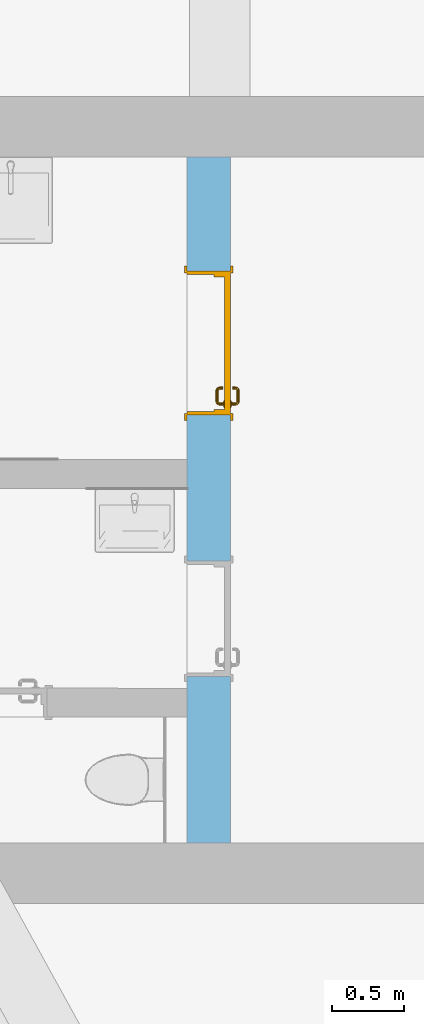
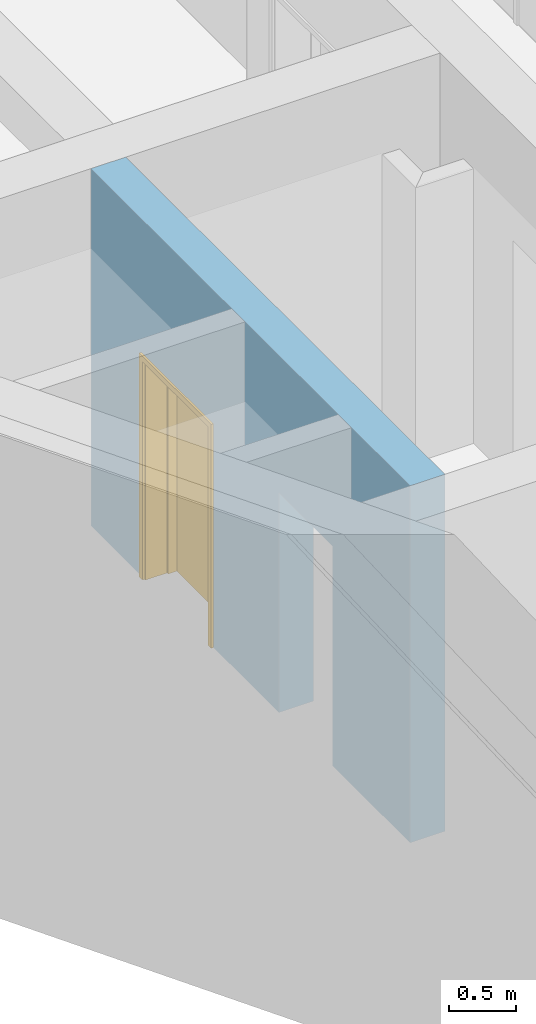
# One storey, part 48 of 194: 1 door, 2 openings, plus 1 element that does not belong to this part.
"""IFC2X3 building model written with IfcOpenShell, lengths in millimetres."""

from ifc_helpers import new_model, entity, si_unit, converted_unit, derived_unit, money_unit, direction, frame, origin_with_axes, origin_2d_with_axis, place, context, subcontext, project, spatial, polyline, rectangle, outline, extrude, open_shell, faceted_brep, surface_model, material, layer, layer_set, layer_usage, type_object, element, fill, save


model = new_model("IFC2X3")

# Units and contexts
model_context = context("Model", 3, precision=1e-05, world=origin_with_axes(), true_north=direction((0.0, 1.0)))
body_context = subcontext(model_context, "Body", "Model", "MODEL_VIEW")
ifc_project = project(units=[si_unit("LENGTHUNIT", "METRE", prefix="MILLI"), si_unit("AREAUNIT", "SQUARE_METRE"), si_unit("VOLUMEUNIT", "CUBIC_METRE"), converted_unit("PLANEANGLEUNIT", "DEGREE", entity("IfcPlaneAngleMeasure", 0.0174532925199), si_unit("PLANEANGLEUNIT", "RADIAN"), dimensions=[0, 0, 0, 0, 0, 0, 0]), si_unit("SOLIDANGLEUNIT", "STERADIAN"), money_unit("EUR"), converted_unit("TIMEUNIT", "Year", entity("IfcTimeMeasure", 31556926.0), si_unit("TIMEUNIT", "SECOND"), dimensions=[0, 0, 1, 0, 0, 0, 0]), si_unit("MASSUNIT", "GRAM", prefix="KILO"), si_unit("THERMODYNAMICTEMPERATUREUNIT", "DEGREE_CELSIUS"), si_unit("LUMINOUSINTENSITYUNIT", "LUMEN"), si_unit("ENERGYUNIT", "JOULE", prefix="MEGA"), derived_unit("THERMALCONDUCTANCEUNIT", [(si_unit("POWERUNIT", "WATT"), 1), (si_unit("LENGTHUNIT", "METRE"), -1), (si_unit("THERMODYNAMICTEMPERATUREUNIT", "KELVIN"), -1)]), derived_unit("SPECIFICHEATCAPACITYUNIT", [(si_unit("ENERGYUNIT", "JOULE"), 1), (si_unit("MASSUNIT", "GRAM", prefix="KILO"), -1), (si_unit("THERMODYNAMICTEMPERATUREUNIT", "KELVIN"), -1)]), derived_unit("MASSDENSITYUNIT", [(si_unit("MASSUNIT", "GRAM", prefix="KILO"), 1), (si_unit("VOLUMEUNIT", "CUBIC_METRE"), -1)])], contexts=[model_context])

# Site, building, storey
site_placement = place(None, origin_with_axes())
site = spatial("IfcSite", under=ifc_project, at=site_placement, Name="Site", CompositionType="ELEMENT")
building_placement = place(site_placement, origin_with_axes())
building = spatial("IfcBuilding", under=site, at=building_placement, Name="Building", CompositionType="ELEMENT")
storey_placement = place(building_placement, frame((0.0, 0.0, 3000.0), z_axis=(0.0, 0.0, 1.0), x_axis=(1.0, 0.0, 0.0)))
storey = spatial("IfcBuildingStorey", under=building, at=storey_placement, Name="2 KORRUS", CompositionType="ELEMENT", Elevation=3000.0)

# Wall, openings, door
ifc_material = material(Name="Kivi -Ol.Olev Konstruktsioon")
ifc_layer = layer(ifc_material, 300.0, ventilated="UNKNOWN")
ifc_layer_set = layer_set([ifc_layer], Name="ol.olev ss 300")
ifc_layer_usage = layer_usage(ifc_layer_set, "AXIS2", "POSITIVE", 0.0)
wall_type = type_object("IfcWallType", Name="SW - 022", PredefinedType="NOTDEFINED")
wall_placement = place(storey_placement, frame((33717.5084509, 13483.9813304, 0.0), z_axis=(0.0, 0.0, 1.0), x_axis=(0.0, -1.0, 0.0)))
wall = element("IfcWallStandardCase", 1, at=wall_placement, inside=storey, type_object=wall_type, material=ifc_layer_usage, Name="ol.olev ss 300", context=body_context, shape_type="SweptSolid", body=[
    extrude(outline(polyline([(0.0, 0.0), (4760.45253446, 0.0), (4760.45253446, 300.0), (0.0, 300.0), (0.0, 0.0)])), origin_with_axes(), (0.0, 0.0, 1.0), 3250.0),
])
opening_1_placement = place(wall_placement, frame((3204.63694047, 0.0, 0.0), z_axis=(0.0, 0.0, 1.0), x_axis=(1.0, 0.0, 0.0)))
element("IfcOpeningElement", 2, at=opening_1_placement, cuts=wall, Name="Siseuks * Door 22", context=body_context, shape_type="SweptSolid", body=[
    extrude(rectangle(XDim=799.999999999, YDim=2000.0, at=origin_2d_with_axis()), frame((0.0, -300.0, 1000.0), z_axis=(0.0, -1.0, 0.0), x_axis=(-1.0, 0.0, 0.0)), (0.0, 0.0, -1.0), 900.0),
    extrude(rectangle(XDim=874.0, YDim=2037.0, at=origin_2d_with_axis()), frame((0.0, 0.0, 1018.5), z_axis=(0.0, -1.0, 0.0), x_axis=(-1.0, 0.0, 0.0)), (0.0, 0.0, 1.0), 300.0),
    extrude(rectangle(XDim=874.0, YDim=2037.0, at=origin_2d_with_axis()), frame((0.0, 300.0, 1018.5), z_axis=(0.0, 1.0, 0.0), x_axis=(-1.0, 0.0, 0.0)), (0.0, 0.0, 1.0), 300.0),
])
opening_2_placement = place(wall_placement, frame((1291.46386027, 0.0, 0.0), z_axis=(0.0, 0.0, 1.0), x_axis=(1.0, 0.0, 0.0)))
opening_2 = element("IfcOpeningElement", 3, at=opening_2_placement, cuts=wall, Name="Siseuks * Door 22", context=body_context, shape_type="SweptSolid", body=[
    extrude(rectangle(XDim=1000.0, YDim=2000.0, at=origin_2d_with_axis()), frame((0.0, -300.0, 1000.0), z_axis=(0.0, -1.0, 0.0), x_axis=(-1.0, 0.0, 0.0)), (0.0, 0.0, -1.0), 900.0),
    extrude(rectangle(XDim=1074.0, YDim=2037.0, at=origin_2d_with_axis()), frame((0.0, 0.0, 1018.5), z_axis=(0.0, -1.0, 0.0), x_axis=(-1.0, 0.0, 0.0)), (0.0, 0.0, 1.0), 300.0),
    extrude(rectangle(XDim=1074.0, YDim=2037.0, at=origin_2d_with_axis()), frame((0.0, 300.0, 1018.5), z_axis=(0.0, 1.0, 0.0), x_axis=(-1.0, 0.0, 0.0)), (0.0, 0.0, 1.0), 300.0),
])
door_style = type_object("IfcDoorStyle", Name="SU-C208   1\xa0000×2\xa0000", ConstructionType="NOTDEFINED", OperationType="SINGLE_SWING_LEFT", ParameterTakesPrecedence=False, Sizeable=False)
door_placement = place(opening_2_placement, frame((-500.0, 0.0, 0.0), z_axis=(0.0, 0.0, 1.0), x_axis=(1.0, 0.0, 0.0)))
door = element("IfcDoor", 4, at=door_placement, inside=storey, type_object=door_style, Name="Siseuks * Door 22", OverallHeight=2000.0, OverallWidth=1000.0, context=body_context, shape_type="SurfaceModel", body=[
    faceted_brep([(1000.0, 185.0, 0.0), (1000.0, 0.0, 0.0), (975.0, 0.0, 0.0), (975.0, 185.0, 0.0), (1000.0, 185.0, 2000.0), (1000.0, 0.0, 2000.0), (975.0, 0.0, 1975.0), (975.0, 185.0, 1975.0)], [[[0, 1, 2, 3]], [[4, 5, 1, 0]], [[1, 5, 6, 2]], [[3, 2, 6, 7]], [[0, 3, 7, 4]], [[7, 6, 5, 4]]]),
    faceted_brep([(0.0, 185.0, 2000.0), (0.0, 0.0, 2000.0), (24.9999999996, 0.0, 1975.0), (24.9999999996, 185.0, 1975.0), (0.0, 185.0, 0.0), (0.0, 0.0, 0.0), (24.9999999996, 0.0, 0.0), (24.9999999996, 185.0, 0.0)], [[[0, 1, 2, 3]], [[4, 5, 1, 0]], [[1, 5, 6, 2]], [[3, 2, 6, 7]], [[0, 3, 7, 4]], [[7, 6, 5, 4]]]),
    faceted_brep([(975.0, 185.0, 1975.0), (975.0, 0.0, 1975.0), (24.9999999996, 0.0, 1975.0), (24.9999999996, 185.0, 1975.0), (1000.0, 185.0, 2000.0), (1000.0, 0.0, 2000.0), (0.0, 0.0, 2000.0), (0.0, 185.0, 2000.0)], [[[0, 1, 2, 3]], [[4, 5, 1, 0]], [[1, 5, 6, 2]], [[3, 2, 6, 7]], [[0, 3, 7, 4]], [[7, 6, 5, 4]]]),
    faceted_brep([(1037.0, -19.0, 0.0), (987.0, -19.0, 0.0), (987.0, 0.0, 0.0), (1037.0, 0.0, 0.0), (1037.0, -19.0, 2037.0), (987.0, -19.0, 1987.0), (987.0, 0.0, 1987.0), (1037.0, 0.0, 2037.0)], [[[0, 1, 2, 3]], [[0, 4, 5, 1]], [[1, 5, 6, 2]], [[3, 2, 6, 7]], [[4, 0, 3, 7]], [[5, 4, 7, 6]]]),
    faceted_brep([(-37.0000000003, -19.0, 2037.0), (12.9999999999, -19.0, 1987.0), (12.9999999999, 0.0, 1987.0), (-37.0000000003, 0.0, 2037.0), (-37.0000000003, -19.0, 0.0), (12.9999999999, -19.0, 0.0), (12.9999999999, 0.0, 0.0), (-37.0000000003, 0.0, 0.0)], [[[0, 1, 2, 3]], [[0, 4, 5, 1]], [[1, 5, 6, 2]], [[3, 2, 6, 7]], [[4, 0, 3, 7]], [[5, 4, 7, 6]]]),
    faceted_brep([(1037.0, -19.0, 2037.0), (987.0, -19.0, 1987.0), (987.0, 0.0, 1987.0), (1037.0, 0.0, 2037.0), (-37.0000000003, -19.0, 2037.0), (12.9999999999, -19.0, 1987.0), (12.9999999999, 0.0, 1987.0), (-37.0000000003, 0.0, 2037.0)], [[[0, 1, 2, 3]], [[0, 4, 5, 1]], [[1, 5, 6, 2]], [[3, 2, 6, 7]], [[4, 0, 3, 7]], [[5, 4, 7, 6]]]),
    faceted_brep([(1037.0, 319.0, 0.0), (1037.0, 300.0, 0.0), (987.0, 300.0, 0.0), (987.0, 319.0, 0.0), (1037.0, 319.0, 2037.0), (1037.0, 300.0, 2037.0), (987.0, 300.0, 1987.0), (987.0, 319.0, 1987.0)], [[[0, 1, 2, 3]], [[4, 5, 1, 0]], [[1, 5, 6, 2]], [[3, 2, 6, 7]], [[0, 3, 7, 4]], [[7, 6, 5, 4]]]),
    faceted_brep([(-37.0000000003, 319.0, 2037.0), (-37.0000000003, 300.0, 2037.0), (12.9999999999, 300.0, 1987.0), (12.9999999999, 319.0, 1987.0), (-37.0000000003, 319.0, 0.0), (-37.0000000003, 300.0, 0.0), (12.9999999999, 300.0, 0.0), (12.9999999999, 319.0, 0.0)], [[[0, 1, 2, 3]], [[4, 5, 1, 0]], [[1, 5, 6, 2]], [[3, 2, 6, 7]], [[0, 3, 7, 4]], [[7, 6, 5, 4]]]),
    faceted_brep([(1037.0, 319.0, 2037.0), (1037.0, 300.0, 2037.0), (987.0, 300.0, 1987.0), (987.0, 319.0, 1987.0), (-37.0000000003, 319.0, 2037.0), (-37.0000000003, 300.0, 2037.0), (12.9999999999, 300.0, 1987.0), (12.9999999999, 319.0, 1987.0)], [[[0, 1, 2, 3]], [[4, 5, 1, 0]], [[1, 5, 6, 2]], [[3, 2, 6, 7]], [[0, 3, 7, 4]], [[7, 6, 5, 4]]]),
    faceted_brep([(960.0, 260.0, 0.0), (960.0, 185.0, 0.0), (960.0, 185.0, 1960.0), (960.0, 260.0, 1960.0), (972.0, 260.0, 0.0), (972.0, 300.0, 0.0), (1000.0, 300.0, 0.0), (1000.0, 185.0, 0.0), (1000.0, 185.0, 1960.0), (972.0, 260.0, 1960.0), (1000.0, 300.0, 1960.0), (972.0, 300.0, 1960.0)], [[[0, 1, 2, 3]], [[4, 5, 6, 7, 1, 0]], [[1, 7, 8, 2]], [[9, 3, 2, 8, 10, 11]], [[9, 4, 0, 3]], [[11, 5, 4, 9]], [[11, 10, 6, 5]], [[6, 10, 8, 7]]]),
    faceted_brep([(28.0000000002, 260.0, 1960.0), (28.0000000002, 300.0, 1960.0), (0.0, 300.0, 1960.0), (0.0, 185.0, 1960.0), (40.0, 185.0, 1960.0), (40.0, 260.0, 1960.0), (28.0000000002, 260.0, 0.0), (28.0000000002, 300.0, 0.0), (0.0, 300.0, 0.0), (0.0, 185.0, 0.0), (40.0, 185.0, 0.0), (40.0, 260.0, 0.0)], [[[0, 1, 2, 3, 4, 5]], [[0, 6, 7, 1]], [[7, 8, 2, 1]], [[2, 8, 9, 3]], [[3, 9, 10, 4]], [[5, 4, 10, 11]], [[5, 11, 6, 0]], [[6, 11, 10, 9, 8, 7]]]),
    faceted_brep([(972.0, 300.0, 1972.0), (28.0000000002, 300.0, 1972.0), (28.0000000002, 300.0, 1960.0), (0.0, 300.0, 1960.0), (0.0, 300.0, 2000.0), (1000.0, 300.0, 2000.0), (1000.0, 300.0, 1960.0), (972.0, 300.0, 1960.0), (972.0, 260.0, 1972.0), (28.0000000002, 260.0, 1972.0), (28.0000000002, 260.0, 1960.0), (40.0, 260.0, 1960.0), (40.0, 185.0, 1960.0), (0.0, 185.0, 1960.0), (0.0, 185.0, 2000.0), (1000.0, 185.0, 2000.0), (1000.0, 185.0, 1960.0), (972.0, 260.0, 1960.0), (960.0, 185.0, 1960.0), (960.0, 260.0, 1960.0)], [[[0, 1, 2, 3, 4, 5, 6, 7]], [[0, 8, 9, 1]], [[1, 9, 10, 2]], [[10, 11, 12, 13, 3, 2]], [[4, 3, 13, 14]], [[5, 4, 14, 15]], [[6, 5, 15, 16]], [[17, 7, 6, 16, 18, 19]], [[7, 17, 8, 0]], [[10, 9, 8, 17, 19, 11]], [[19, 18, 12, 11]], [[12, 18, 16, 15, 14, 13]]]),
    faceted_brep([(950.5, 260.0, 1060.0), (893.5, 260.0, 1060.0), (893.5, 257.0, 1060.0), (950.5, 257.0, 1060.0), (950.5, 260.0, 870.0), (893.5, 260.0, 870.0), (893.5, 257.0, 870.0), (950.5, 257.0, 870.0)], [[[0, 1, 2, 3]], [[0, 4, 5, 1]], [[1, 5, 6, 2]], [[3, 2, 6, 7]], [[4, 0, 3, 7]], [[5, 4, 7, 6]]]),
    surface_model("IfcShellBasedSurfaceModel", [(912.0, 247.0, 1000.0), (914.928932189, 247.0, 992.928932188), (914.928932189, 227.696439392, 992.928932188), (912.0, 227.984914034, 1000.0), (922.0, 247.0, 990.0), (922.0, 227.0, 990.0), (913.816790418, 222.105325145, 992.928932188), (911.057796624, 223.248137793, 1000.0), (914.928932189, 247.0, 1007.07106781), (914.928932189, 227.696439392, 1007.07106781), (929.071067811, 247.0, 992.928932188), (929.071067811, 226.303560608, 992.928932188), (920.47759065, 219.346331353, 990.0), (911.044179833, 217.955820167, 992.928932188), (908.932537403, 220.067462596, 1000.0), (913.816790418, 222.105325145, 1007.07106781), (922.0, 247.0, 1010.0), (922.0, 227.0, 1010.0), (932.0, 247.0, 1000.0), (932.0, 226.015085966, 1000.0), (927.138390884, 216.58733756, 992.928932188), (916.142135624, 212.857864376, 990.0), (906.894674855, 215.183209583, 992.928932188), (905.751862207, 217.942203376, 1000.0), (911.044179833, 217.955820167, 1007.07106781), (920.47759065, 219.346331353, 1010.0), (929.071067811, 247.0, 1007.07106781), (929.071067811, 226.303560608, 1007.07106781), (929.897384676, 215.444524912, 1000.0), (921.240091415, 207.759908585, 992.928932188), (909.653668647, 208.52240935, 990.0), (901.303560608, 214.071067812, 992.928932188), (901.015085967, 217.0, 1000.0), (906.894674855, 215.183209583, 1007.07106781), (916.142135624, 212.857864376, 1010.0), (927.138390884, 216.58733756, 1007.07106781), (923.351733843, 205.648266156, 1000.0), (912.41266244, 201.861609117, 992.928932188), (902.0, 207.0, 990.0), (832.696439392, 214.071067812, 992.928932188), (832.984914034, 217.0, 1000.0), (901.303560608, 214.071067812, 1007.07106781), (909.653668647, 208.52240935, 1010.0), (921.240091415, 207.759908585, 1007.07106781), (913.555475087, 199.102615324, 1000.0), (902.696439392, 199.928932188, 992.928932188), (832.0, 207.0, 990.0), (827.105325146, 215.183209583, 992.928932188), (828.248137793, 217.942203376, 1000.0), (832.696439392, 214.071067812, 1007.07106781), (902.0, 207.0, 1010.0), (912.41266244, 201.861609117, 1007.07106781), (902.984914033, 197.0, 1000.0), (831.303560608, 199.928932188, 992.928932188), (824.346331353, 208.52240935, 990.0), (822.955820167, 217.955820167, 992.928932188), (825.067462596, 220.067462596, 1000.0), (827.105325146, 215.183209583, 1007.07106781), (832.0, 207.0, 1010.0), (902.696439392, 199.928932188, 1007.07106781), (831.015085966, 197.0, 1000.0), (821.58733756, 201.861609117, 992.928932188), (817.857864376, 212.857864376, 990.0), (820.183209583, 222.105325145, 992.928932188), (822.942203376, 223.248137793, 1000.0), (822.955820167, 217.955820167, 1007.07106781), (824.346331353, 208.52240935, 1010.0), (831.303560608, 199.928932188, 1007.07106781), (820.444524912, 199.102615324, 1000.0), (812.759908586, 207.759908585, 992.928932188), (813.522409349, 219.346331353, 990.0), (819.071067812, 227.696439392, 992.928932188), (822.0, 227.984914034, 1000.0), (820.183209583, 222.105325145, 1007.07106781), (817.857864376, 212.857864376, 1010.0), (821.58733756, 201.861609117, 1007.07106781), (810.648266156, 205.648266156, 1000.0), (806.861609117, 216.58733756, 992.928932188), (812.0, 227.0, 990.0), (819.071067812, 247.0, 992.928932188), (822.0, 247.0, 1000.0), (819.071067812, 227.696439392, 1007.07106781), (813.522409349, 219.346331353, 1010.0), (812.759908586, 207.759908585, 1007.07106781), (804.102615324, 215.444524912, 1000.0), (804.928932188, 226.303560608, 992.928932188), (812.0, 247.0, 990.0), (804.928932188, 247.0, 992.928932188), (802.0, 247.0, 1000.0), (804.928932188, 247.0, 1007.07106781), (812.0, 247.0, 1010.0), (819.071067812, 247.0, 1007.07106781), (812.0, 227.0, 1010.0), (806.861609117, 216.58733756, 1007.07106781), (802.0, 226.015085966, 1000.0), (804.928932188, 226.303560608, 1007.07106781)], [open_shell([[[0, 1, 2, 3]], [[1, 4, 5, 2]], [[3, 2, 6, 7]], [[8, 0, 3, 9]], [[4, 10, 11, 5]], [[2, 5, 12, 6]], [[7, 6, 13, 14]], [[9, 3, 7, 15]], [[16, 8, 9, 17]], [[10, 18, 19, 11]], [[5, 11, 20, 12]], [[6, 12, 21, 13]], [[14, 13, 22, 23]], [[15, 7, 14, 24]], [[17, 9, 15, 25]], [[26, 16, 17, 27]], [[18, 26, 27, 19]], [[11, 19, 28, 20]], [[12, 20, 29, 21]], [[13, 21, 30, 22]], [[23, 22, 31, 32]], [[24, 14, 23, 33]], [[25, 15, 24, 34]], [[27, 17, 25, 35]], [[19, 27, 35, 28]], [[20, 28, 36, 29]], [[21, 29, 37, 30]], [[22, 30, 38, 31]], [[32, 31, 39, 40]], [[33, 23, 32, 41]], [[34, 24, 33, 42]], [[35, 25, 34, 43]], [[28, 35, 43, 36]], [[29, 36, 44, 37]], [[30, 37, 45, 38]], [[31, 38, 46, 39]], [[40, 39, 47, 48]], [[41, 32, 40, 49]], [[42, 33, 41, 50]], [[43, 34, 42, 51]], [[36, 43, 51, 44]], [[37, 44, 52, 45]], [[38, 45, 53, 46]], [[39, 46, 54, 47]], [[48, 47, 55, 56]], [[49, 40, 48, 57]], [[50, 41, 49, 58]], [[51, 42, 50, 59]], [[44, 51, 59, 52]], [[45, 52, 60, 53]], [[46, 53, 61, 54]], [[47, 54, 62, 55]], [[56, 55, 63, 64]], [[57, 48, 56, 65]], [[58, 49, 57, 66]], [[59, 50, 58, 67]], [[52, 59, 67, 60]], [[53, 60, 68, 61]], [[54, 61, 69, 62]], [[55, 62, 70, 63]], [[64, 63, 71, 72]], [[65, 56, 64, 73]], [[66, 57, 65, 74]], [[67, 58, 66, 75]], [[60, 67, 75, 68]], [[61, 68, 76, 69]], [[62, 69, 77, 70]], [[63, 70, 78, 71]], [[72, 71, 79, 80]], [[73, 64, 72, 81]], [[74, 65, 73, 82]], [[75, 66, 74, 83]], [[68, 75, 83, 76]], [[69, 76, 84, 77]], [[70, 77, 85, 78]], [[71, 78, 86, 79]], [[80, 79, 86, 87, 88, 89, 90, 91]], [[81, 72, 80, 91]], [[82, 73, 81, 92]], [[83, 74, 82, 93]], [[76, 83, 93, 84]], [[77, 84, 94, 85]], [[78, 85, 87, 86]], [[85, 94, 88, 87]], [[94, 95, 89, 88]], [[95, 92, 90, 89]], [[92, 81, 91, 90]], [[93, 82, 92, 95]], [[84, 93, 95, 94]]])]),
    faceted_brep([(911.607695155, 247.0, 994.0), (910.0, 247.0, 1000.0), (909.0, 257.0, 1000.0), (910.741669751, 257.0, 993.5), (916.0, 247.0, 989.607695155), (922.0, 247.0, 988.0), (928.0, 247.0, 989.607695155), (932.392304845, 247.0, 994.0), (934.0, 247.0, 1000.0), (932.392304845, 247.0, 1006.0), (928.0, 247.0, 1010.39230485), (922.0, 247.0, 1012.0), (916.0, 247.0, 1010.39230485), (911.607695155, 247.0, 1006.0), (910.741669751, 257.0, 1006.5), (915.5, 257.0, 1011.25833025), (922.0, 257.0, 1013.0), (928.5, 257.0, 1011.25833025), (933.258330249, 257.0, 1006.5), (935.0, 257.0, 1000.0), (933.258330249, 257.0, 993.5), (928.5, 257.0, 988.741669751), (922.0, 257.0, 987.0), (915.5, 257.0, 988.741669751)], [[[0, 1, 2, 3]], [[1, 0, 4, 5, 6, 7, 8, 9, 10, 11, 12, 13]], [[1, 13, 14, 2]], [[2, 14, 15, 16, 17, 18, 19, 20, 21, 22, 23, 3]], [[4, 0, 3, 23]], [[5, 4, 23, 22]], [[6, 5, 22, 21]], [[7, 6, 21, 20]], [[8, 7, 20, 19]], [[9, 8, 19, 18]], [[10, 9, 18, 17]], [[11, 10, 17, 16]], [[12, 11, 16, 15]], [[13, 12, 15, 14]]]),
    faceted_brep([(904.679491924, 253.0, 895.0), (902.0, 253.0, 905.0), (900.0, 257.0, 905.0), (902.947441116, 257.0, 894.0), (912.0, 253.0, 887.679491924), (922.0, 253.0, 885.0), (932.0, 253.0, 887.679491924), (939.320508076, 253.0, 895.0), (942.0, 253.0, 905.0), (939.320508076, 253.0, 915.0), (932.0, 253.0, 922.320508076), (922.0, 253.0, 925.0), (912.0, 253.0, 922.320508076), (904.679491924, 253.0, 915.0), (902.947441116, 257.0, 916.0), (911.0, 257.0, 924.052558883), (922.0, 257.0, 927.0), (933.0, 257.0, 924.052558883), (941.052558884, 257.0, 916.0), (944.0, 257.0, 905.0), (941.052558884, 257.0, 894.0), (933.0, 257.0, 885.947441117), (922.0, 257.0, 883.0), (911.0, 257.0, 885.947441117)], [[[0, 1, 2, 3]], [[1, 0, 4, 5, 6, 7, 8, 9, 10, 11, 12, 13]], [[1, 13, 14, 2]], [[2, 14, 15, 16, 17, 18, 19, 20, 21, 22, 23, 3]], [[4, 0, 3, 23]], [[5, 4, 23, 22]], [[6, 5, 22, 21]], [[7, 6, 21, 20]], [[8, 7, 20, 19]], [[9, 8, 19, 18]], [[10, 9, 18, 17]], [[11, 10, 17, 16]], [[12, 11, 16, 15]], [[13, 12, 15, 14]]]),
    faceted_brep([(917.050252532, 251.0, 909.050252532), (915.0, 251.0, 914.0), (914.0, 253.0, 914.0), (916.343145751, 253.0, 908.343145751), (922.0, 251.0, 907.0), (926.949747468, 251.0, 909.050252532), (929.0, 251.0, 914.0), (926.949747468, 251.0, 918.949747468), (922.0, 251.0, 921.0), (917.050252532, 251.0, 918.949747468), (916.343145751, 253.0, 919.656854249), (922.0, 253.0, 922.0), (927.656854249, 253.0, 919.656854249), (930.0, 253.0, 914.0), (927.656854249, 253.0, 908.343145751), (922.0, 253.0, 906.0)], [[[0, 1, 2, 3]], [[1, 0, 4, 5, 6, 7, 8, 9]], [[1, 9, 10, 2]], [[2, 10, 11, 12, 13, 14, 15, 3]], [[4, 0, 3, 15]], [[5, 4, 15, 14]], [[6, 5, 14, 13]], [[7, 6, 13, 12]], [[8, 7, 12, 11]], [[9, 8, 11, 10]]]),
    faceted_brep([(950.5, 300.0, 1060.0), (950.5, 303.0, 1060.0), (893.5, 303.0, 1060.0), (893.5, 300.0, 1060.0), (950.5, 300.0, 870.0), (950.5, 303.0, 870.0), (893.5, 303.0, 870.0), (893.5, 300.0, 870.0)], [[[0, 1, 2, 3]], [[4, 5, 1, 0]], [[1, 5, 6, 2]], [[3, 2, 6, 7]], [[0, 3, 7, 4]], [[7, 6, 5, 4]]]),
    surface_model("IfcShellBasedSurfaceModel", [(912.0, 313.0, 1000.0), (912.0, 332.015085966, 1000.0), (914.928932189, 332.303560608, 992.928932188), (914.928932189, 313.0, 992.928932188), (914.928932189, 313.0, 1007.07106781), (914.928932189, 332.303560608, 1007.07106781), (911.057796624, 336.751862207, 1000.0), (913.816790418, 337.894674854, 992.928932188), (922.0, 333.0, 990.0), (922.0, 313.0, 990.0), (922.0, 313.0, 1010.0), (922.0, 333.0, 1010.0), (913.816790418, 337.894674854, 1007.07106781), (908.932537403, 339.932537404, 1000.0), (911.044179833, 342.044179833, 992.928932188), (920.47759065, 340.653668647, 990.0), (929.071067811, 333.696439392, 992.928932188), (929.071067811, 313.0, 992.928932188), (929.071067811, 313.0, 1007.07106781), (929.071067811, 333.696439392, 1007.07106781), (920.47759065, 340.653668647, 1010.0), (911.044179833, 342.044179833, 1007.07106781), (905.751862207, 342.057796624, 1000.0), (906.894674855, 344.816790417, 992.928932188), (916.142135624, 347.142135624, 990.0), (927.138390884, 343.41266244, 992.928932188), (932.0, 333.984914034, 1000.0), (932.0, 313.0, 1000.0), (927.138390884, 343.41266244, 1007.07106781), (916.142135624, 347.142135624, 1010.0), (906.894674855, 344.816790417, 1007.07106781), (901.015085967, 343.0, 1000.0), (901.303560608, 345.928932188, 992.928932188), (909.653668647, 351.47759065, 990.0), (921.240091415, 352.240091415, 992.928932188), (929.897384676, 344.555475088, 1000.0), (921.240091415, 352.240091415, 1007.07106781), (909.653668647, 351.47759065, 1010.0), (901.303560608, 345.928932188, 1007.07106781), (832.984914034, 343.0, 1000.0), (832.696439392, 345.928932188, 992.928932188), (902.0, 353.0, 990.0), (912.41266244, 358.138390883, 992.928932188), (923.351733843, 354.351733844, 1000.0), (912.41266244, 358.138390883, 1007.07106781), (902.0, 353.0, 1010.0), (832.696439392, 345.928932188, 1007.07106781), (828.248137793, 342.057796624, 1000.0), (827.105325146, 344.816790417, 992.928932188), (832.0, 353.0, 990.0), (902.696439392, 360.071067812, 992.928932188), (913.555475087, 360.897384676, 1000.0), (902.696439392, 360.071067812, 1007.07106781), (832.0, 353.0, 1010.0), (827.105325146, 344.816790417, 1007.07106781), (825.067462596, 339.932537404, 1000.0), (822.955820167, 342.044179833, 992.928932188), (824.346331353, 351.47759065, 990.0), (831.303560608, 360.071067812, 992.928932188), (902.984914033, 363.0, 1000.0), (831.303560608, 360.071067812, 1007.07106781), (824.346331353, 351.47759065, 1010.0), (822.955820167, 342.044179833, 1007.07106781), (822.942203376, 336.751862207, 1000.0), (820.183209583, 337.894674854, 992.928932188), (817.857864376, 347.142135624, 990.0), (821.58733756, 358.138390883, 992.928932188), (831.015085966, 363.0, 1000.0), (821.58733756, 358.138390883, 1007.07106781), (817.857864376, 347.142135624, 1010.0), (820.183209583, 337.894674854, 1007.07106781), (822.0, 332.015085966, 1000.0), (819.071067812, 332.303560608, 992.928932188), (813.522409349, 340.653668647, 990.0), (812.759908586, 352.240091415, 992.928932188), (820.444524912, 360.897384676, 1000.0), (812.759908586, 352.240091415, 1007.07106781), (813.522409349, 340.653668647, 1010.0), (819.071067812, 332.303560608, 1007.07106781), (822.0, 313.0, 1000.0), (819.071067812, 313.0, 992.928932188), (812.0, 333.0, 990.0), (806.861609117, 343.41266244, 992.928932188), (810.648266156, 354.351733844, 1000.0), (806.861609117, 343.41266244, 1007.07106781), (812.0, 333.0, 1010.0), (819.071067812, 313.0, 1007.07106781), (812.0, 313.0, 1010.0), (804.928932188, 313.0, 1007.07106781), (802.0, 313.0, 1000.0), (804.928932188, 313.0, 992.928932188), (812.0, 313.0, 990.0), (804.928932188, 333.696439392, 992.928932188), (804.102615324, 344.555475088, 1000.0), (804.928932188, 333.696439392, 1007.07106781), (802.0, 333.984914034, 1000.0)], [open_shell([[[0, 1, 2, 3]], [[4, 5, 1, 0]], [[1, 6, 7, 2]], [[3, 2, 8, 9]], [[10, 11, 5, 4]], [[5, 12, 6, 1]], [[6, 13, 14, 7]], [[2, 7, 15, 8]], [[9, 8, 16, 17]], [[18, 19, 11, 10]], [[11, 20, 12, 5]], [[12, 21, 13, 6]], [[13, 22, 23, 14]], [[7, 14, 24, 15]], [[8, 15, 25, 16]], [[17, 16, 26, 27]], [[27, 26, 19, 18]], [[19, 28, 20, 11]], [[20, 29, 21, 12]], [[21, 30, 22, 13]], [[22, 31, 32, 23]], [[14, 23, 33, 24]], [[15, 24, 34, 25]], [[16, 25, 35, 26]], [[26, 35, 28, 19]], [[28, 36, 29, 20]], [[29, 37, 30, 21]], [[30, 38, 31, 22]], [[31, 39, 40, 32]], [[23, 32, 41, 33]], [[24, 33, 42, 34]], [[25, 34, 43, 35]], [[35, 43, 36, 28]], [[36, 44, 37, 29]], [[37, 45, 38, 30]], [[38, 46, 39, 31]], [[39, 47, 48, 40]], [[32, 40, 49, 41]], [[33, 41, 50, 42]], [[34, 42, 51, 43]], [[43, 51, 44, 36]], [[44, 52, 45, 37]], [[45, 53, 46, 38]], [[46, 54, 47, 39]], [[47, 55, 56, 48]], [[40, 48, 57, 49]], [[41, 49, 58, 50]], [[42, 50, 59, 51]], [[51, 59, 52, 44]], [[52, 60, 53, 45]], [[53, 61, 54, 46]], [[54, 62, 55, 47]], [[55, 63, 64, 56]], [[48, 56, 65, 57]], [[49, 57, 66, 58]], [[50, 58, 67, 59]], [[59, 67, 60, 52]], [[60, 68, 61, 53]], [[61, 69, 62, 54]], [[62, 70, 63, 55]], [[63, 71, 72, 64]], [[56, 64, 73, 65]], [[57, 65, 74, 66]], [[58, 66, 75, 67]], [[67, 75, 68, 60]], [[68, 76, 69, 61]], [[69, 77, 70, 62]], [[70, 78, 71, 63]], [[71, 79, 80, 72]], [[64, 72, 81, 73]], [[65, 73, 82, 74]], [[66, 74, 83, 75]], [[75, 83, 76, 68]], [[76, 84, 77, 69]], [[77, 85, 78, 70]], [[78, 86, 79, 71]], [[79, 86, 87, 88, 89, 90, 91, 80]], [[72, 80, 91, 81]], [[73, 81, 92, 82]], [[74, 82, 93, 83]], [[83, 93, 84, 76]], [[84, 94, 85, 77]], [[85, 87, 86, 78]], [[94, 88, 87, 85]], [[95, 89, 88, 94]], [[92, 90, 89, 95]], [[81, 91, 90, 92]], [[82, 92, 95, 93]], [[93, 95, 94, 84]]])]),
    faceted_brep([(911.607695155, 313.0, 994.0), (910.741669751, 303.0, 993.5), (909.0, 303.0, 1000.0), (910.0, 313.0, 1000.0), (916.0, 313.0, 989.607695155), (915.5, 303.0, 988.741669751), (922.0, 303.0, 987.0), (928.5, 303.0, 988.741669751), (933.258330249, 303.0, 993.5), (935.0, 303.0, 1000.0), (933.258330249, 303.0, 1006.5), (928.5, 303.0, 1011.25833025), (922.0, 303.0, 1013.0), (915.5, 303.0, 1011.25833025), (910.741669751, 303.0, 1006.5), (911.607695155, 313.0, 1006.0), (916.0, 313.0, 1010.39230485), (922.0, 313.0, 1012.0), (928.0, 313.0, 1010.39230485), (932.392304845, 313.0, 1006.0), (934.0, 313.0, 1000.0), (932.392304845, 313.0, 994.0), (928.0, 313.0, 989.607695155), (922.0, 313.0, 988.0)], [[[0, 1, 2, 3]], [[4, 5, 1, 0]], [[2, 1, 5, 6, 7, 8, 9, 10, 11, 12, 13, 14]], [[3, 2, 14, 15]], [[3, 15, 16, 17, 18, 19, 20, 21, 22, 23, 4, 0]], [[23, 6, 5, 4]], [[22, 7, 6, 23]], [[21, 8, 7, 22]], [[20, 9, 8, 21]], [[19, 10, 9, 20]], [[18, 11, 10, 19]], [[17, 12, 11, 18]], [[16, 13, 12, 17]], [[15, 14, 13, 16]]]),
    faceted_brep([(904.679491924, 307.0, 895.0), (902.947441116, 303.0, 894.0), (900.0, 303.0, 905.0), (902.0, 307.0, 905.0), (912.0, 307.0, 887.679491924), (911.0, 303.0, 885.947441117), (922.0, 303.0, 883.0), (933.0, 303.0, 885.947441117), (941.052558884, 303.0, 894.0), (944.0, 303.0, 905.0), (941.052558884, 303.0, 916.0), (933.0, 303.0, 924.052558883), (922.0, 303.0, 927.0), (911.0, 303.0, 924.052558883), (902.947441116, 303.0, 916.0), (904.679491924, 307.0, 915.0), (912.0, 307.0, 922.320508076), (922.0, 307.0, 925.0), (932.0, 307.0, 922.320508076), (939.320508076, 307.0, 915.0), (942.0, 307.0, 905.0), (939.320508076, 307.0, 895.0), (932.0, 307.0, 887.679491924), (922.0, 307.0, 885.0)], [[[0, 1, 2, 3]], [[4, 5, 1, 0]], [[2, 1, 5, 6, 7, 8, 9, 10, 11, 12, 13, 14]], [[3, 2, 14, 15]], [[3, 15, 16, 17, 18, 19, 20, 21, 22, 23, 4, 0]], [[23, 6, 5, 4]], [[22, 7, 6, 23]], [[21, 8, 7, 22]], [[20, 9, 8, 21]], [[19, 10, 9, 20]], [[18, 11, 10, 19]], [[17, 12, 11, 18]], [[16, 13, 12, 17]], [[15, 14, 13, 16]]]),
    faceted_brep([(917.050252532, 309.0, 909.050252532), (916.343145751, 307.0, 908.343145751), (914.0, 307.0, 914.0), (915.0, 309.0, 914.0), (922.0, 309.0, 907.0), (922.0, 307.0, 906.0), (927.656854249, 307.0, 908.343145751), (930.0, 307.0, 914.0), (927.656854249, 307.0, 919.656854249), (922.0, 307.0, 922.0), (916.343145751, 307.0, 919.656854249), (917.050252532, 309.0, 918.949747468), (922.0, 309.0, 921.0), (926.949747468, 309.0, 918.949747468), (929.0, 309.0, 914.0), (926.949747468, 309.0, 909.050252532)], [[[0, 1, 2, 3]], [[4, 5, 1, 0]], [[2, 1, 5, 6, 7, 8, 9, 10]], [[3, 2, 10, 11]], [[3, 11, 12, 13, 14, 15, 4, 0]], [[15, 6, 5, 4]], [[14, 7, 6, 15]], [[13, 8, 7, 14]], [[12, 9, 8, 13]], [[11, 10, 9, 12]]]),
    faceted_brep([(28.0000000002, 300.0, 0.0), (972.0, 300.0, 0.0), (972.0, 260.0, 0.0), (28.0000000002, 260.0, 0.0), (28.0000000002, 300.0, 1972.0), (972.0, 300.0, 1972.0), (972.0, 260.0, 1972.0), (28.0000000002, 260.0, 1972.0)], [[[0, 1, 2, 3]], [[0, 4, 5, 1]], [[1, 5, 6, 2]], [[3, 2, 6, 7]], [[4, 0, 3, 7]], [[5, 4, 7, 6]]]),
])
fill(opening_2, door)

save(model, "model.ifc")
